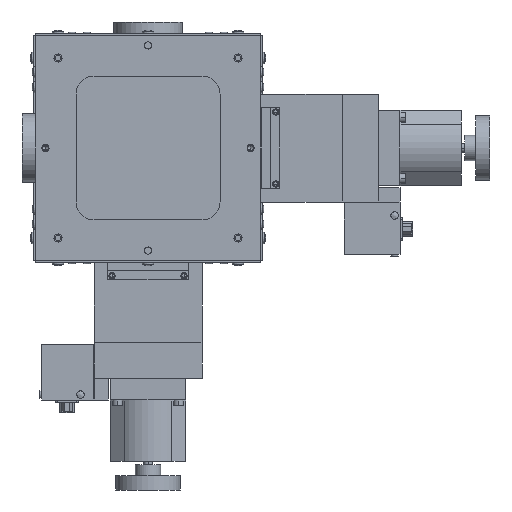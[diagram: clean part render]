
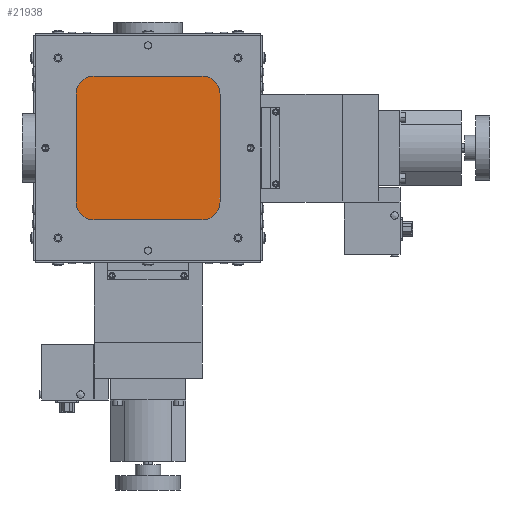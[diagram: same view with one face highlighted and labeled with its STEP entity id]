
A CAD part, front view. The second image highlights one B-rep face of the part: STEP entity #21938.
In plain terms, the highlighted planar face has unit normal (0, -1, 0).
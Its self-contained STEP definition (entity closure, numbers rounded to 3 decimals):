
#12691 = CARTESIAN_POINT ( 'NONE',  ( -40., 3., -30. ) ) ;
#12765 = DIRECTION ( 'NONE',  ( 0., 0., 1. ) ) ;
#12766 = VECTOR ( 'NONE', #12765, 1000. ) ;
#12768 = CARTESIAN_POINT ( 'NONE',  ( -40., 3., -30. ) ) ;
#12770 = LINE ( 'NONE', #12768, #12766 ) ;
#12774 = CARTESIAN_POINT ( 'NONE',  ( -40., 3., 30. ) ) ;
#12776 = DIRECTION ( 'NONE',  ( 0., 0., -1. ) ) ;
#12778 = DIRECTION ( 'NONE',  ( 0., 1., 0. ) ) ;
#12780 = CARTESIAN_POINT ( 'NONE',  ( -30., 3., 30. ) ) ;
#12782 = AXIS2_PLACEMENT_3D ( 'NONE', #12780, #12778, #12776 ) ;
#12783 = CIRCLE ( 'NONE', #12782, 10. ) ;
#12789 = CARTESIAN_POINT ( 'NONE',  ( -30., 3., 40. ) ) ;
#12791 = DIRECTION ( 'NONE',  ( 1., 0., 0. ) ) ;
#12792 = VECTOR ( 'NONE', #12791, 1000. ) ;
#12793 = CARTESIAN_POINT ( 'NONE',  ( 30., 3., 40. ) ) ;
#12795 = LINE ( 'NONE', #12793, #12792 ) ;
#12800 = CARTESIAN_POINT ( 'NONE',  ( 40., 3., 30. ) ) ;
#12802 = CARTESIAN_POINT ( 'NONE',  ( 30., 3., 40. ) ) ;
#12804 = DIRECTION ( 'NONE',  ( 0., 0., -1. ) ) ;
#12805 = DIRECTION ( 'NONE',  ( 0., 1., 0. ) ) ;
#12806 = CARTESIAN_POINT ( 'NONE',  ( 30., 3., 30. ) ) ;
#12808 = AXIS2_PLACEMENT_3D ( 'NONE', #12806, #12805, #12804 ) ;
#12810 = CIRCLE ( 'NONE', #12808, 10. ) ;
#12815 = DIRECTION ( 'NONE',  ( 0., 0., -1. ) ) ;
#12816 = DIRECTION ( 'NONE',  ( 0., -1., 0. ) ) ;
#12817 = CARTESIAN_POINT ( 'NONE',  ( 30., 3., 30. ) ) ;
#12818 = AXIS2_PLACEMENT_3D ( 'NONE', #12817, #12816, #12815 ) ;
#12822 = AXIS2_PLACEMENT_3D ( 'NONE', #13324, #13323, #13321 ) ;
#12824 = CIRCLE ( 'NONE', #12822, 10. ) ;
#12971 = PLANE ( 'NONE',  #12818 ) ;
#12980 = FACE_OUTER_BOUND ( 'NONE', #22022, .T. ) ;
#13284 = DIRECTION ( 'NONE',  ( 0., 0., -1. ) ) ;
#13285 = VECTOR ( 'NONE', #13284, 1000. ) ;
#13287 = CARTESIAN_POINT ( 'NONE',  ( 40., 3., -30. ) ) ;
#13289 = LINE ( 'NONE', #13287, #13285 ) ;
#13293 = CARTESIAN_POINT ( 'NONE',  ( 40., 3., -30. ) ) ;
#13294 = DIRECTION ( 'NONE',  ( 0., 0., -1. ) ) ;
#13295 = DIRECTION ( 'NONE',  ( 0., 1., 0. ) ) ;
#13297 = CARTESIAN_POINT ( 'NONE',  ( 30., 3., -30. ) ) ;
#13299 = AXIS2_PLACEMENT_3D ( 'NONE', #13297, #13295, #13294 ) ;
#13300 = CIRCLE ( 'NONE', #13299, 10. ) ;
#13306 = CARTESIAN_POINT ( 'NONE',  ( 30., 3., -40. ) ) ;
#13307 = DIRECTION ( 'NONE',  ( -1., 0., 0. ) ) ;
#13308 = VECTOR ( 'NONE', #13307, 1000. ) ;
#13310 = CARTESIAN_POINT ( 'NONE',  ( 30., 3., -40. ) ) ;
#13312 = LINE ( 'NONE', #13310, #13308 ) ;
#13318 = CARTESIAN_POINT ( 'NONE',  ( -30., 3., -40. ) ) ;
#13321 = DIRECTION ( 'NONE',  ( 0., 0., -1. ) ) ;
#13323 = DIRECTION ( 'NONE',  ( 0., 1., 0. ) ) ;
#13324 = CARTESIAN_POINT ( 'NONE',  ( -30., 3., -30. ) ) ;
#21938 = ADVANCED_FACE ( 'NONE', ( #12980 ), #12971, .T. ) ;
#21939 = ORIENTED_EDGE ( 'NONE', *, *, #21940, .F. ) ;
#21940 = EDGE_CURVE ( 'NONE', #21941, #21942, #12810, .T. ) ;
#21941 = VERTEX_POINT ( 'NONE', #12802 ) ;
#21942 = VERTEX_POINT ( 'NONE', #12800 ) ;
#21943 = ORIENTED_EDGE ( 'NONE', *, *, #21944, .F. ) ;
#21944 = EDGE_CURVE ( 'NONE', #21945, #21941, #12795, .T. ) ;
#21945 = VERTEX_POINT ( 'NONE', #12789 ) ;
#21946 = ORIENTED_EDGE ( 'NONE', *, *, #21947, .F. ) ;
#21947 = EDGE_CURVE ( 'NONE', #21948, #21945, #12783, .T. ) ;
#21948 = VERTEX_POINT ( 'NONE', #12774 ) ;
#21949 = ORIENTED_EDGE ( 'NONE', *, *, #21950, .F. ) ;
#21950 = EDGE_CURVE ( 'NONE', #21987, #21948, #12770, .T. ) ;
#21987 = VERTEX_POINT ( 'NONE', #12691 ) ;
#22022 = EDGE_LOOP ( 'NONE', ( #21939, #21943, #21946, #21949, #22044, #22047, #22050, #22053 ) ) ;
#22044 = ORIENTED_EDGE ( 'NONE', *, *, #22045, .F. ) ;
#22045 = EDGE_CURVE ( 'NONE', #22046, #21987, #12824, .T. ) ;
#22046 = VERTEX_POINT ( 'NONE', #13318 ) ;
#22047 = ORIENTED_EDGE ( 'NONE', *, *, #22048, .F. ) ;
#22048 = EDGE_CURVE ( 'NONE', #22049, #22046, #13312, .T. ) ;
#22049 = VERTEX_POINT ( 'NONE', #13306 ) ;
#22050 = ORIENTED_EDGE ( 'NONE', *, *, #22051, .F. ) ;
#22051 = EDGE_CURVE ( 'NONE', #22052, #22049, #13300, .T. ) ;
#22052 = VERTEX_POINT ( 'NONE', #13293 ) ;
#22053 = ORIENTED_EDGE ( 'NONE', *, *, #22054, .F. ) ;
#22054 = EDGE_CURVE ( 'NONE', #21942, #22052, #13289, .T. ) ;
